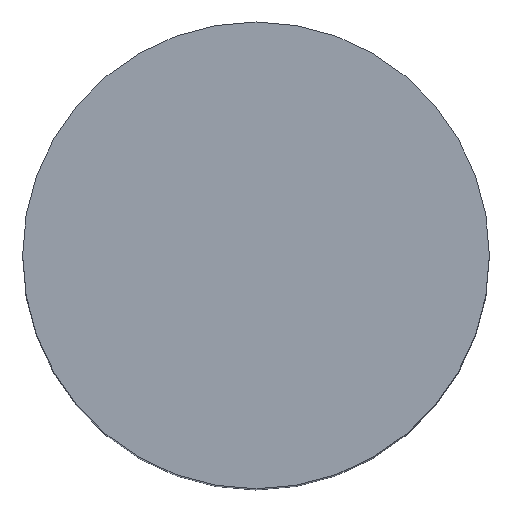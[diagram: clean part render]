
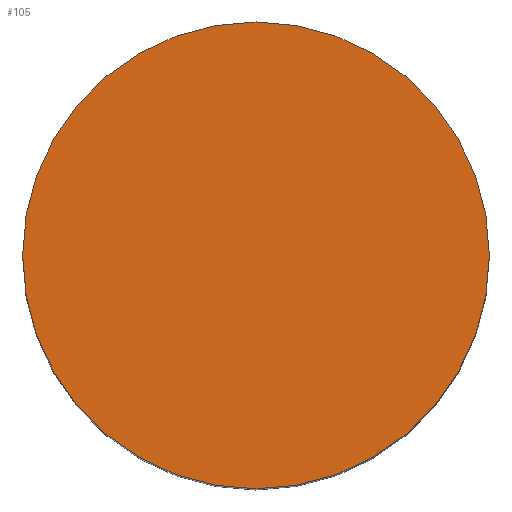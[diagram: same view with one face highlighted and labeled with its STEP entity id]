
A CAD part, top view. The second image highlights one B-rep face of the part: STEP entity #105.
In plain terms, the highlighted planar face has unit normal (0, 0, 1).
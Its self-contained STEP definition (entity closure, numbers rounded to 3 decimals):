
#21 = EDGE_CURVE('',#22,#22,#24,.T.);
#22 = VERTEX_POINT('',#23);
#23 = CARTESIAN_POINT('',(111.8,0.,24.));
#24 = SURFACE_CURVE('',#25,(#30,#42),.PCURVE_S1.);
#25 = CIRCLE('',#26,3.);
#26 = AXIS2_PLACEMENT_3D('',#27,#28,#29);
#27 = CARTESIAN_POINT('',(108.8,0.,24.));
#28 = DIRECTION('',(0.,0.,1.));
#29 = DIRECTION('',(1.,0.,-0.));
#30 = PCURVE('',#31,#36);
#31 = CYLINDRICAL_SURFACE('',#32,3.);
#32 = AXIS2_PLACEMENT_3D('',#33,#34,#35);
#33 = CARTESIAN_POINT('',(108.8,0.,15.));
#34 = DIRECTION('',(0.,0.,1.));
#35 = DIRECTION('',(1.,0.,-0.));
#36 = DEFINITIONAL_REPRESENTATION('',(#37),#41);
#37 = LINE('',#38,#39);
#38 = CARTESIAN_POINT('',(0.,9.));
#39 = VECTOR('',#40,1.);
#40 = DIRECTION('',(1.,0.));
#41 = ( GEOMETRIC_REPRESENTATION_CONTEXT(2) 
PARAMETRIC_REPRESENTATION_CONTEXT() REPRESENTATION_CONTEXT('2D SPACE',''
  ) );
#42 = PCURVE('',#43,#48);
#43 = PLANE('',#44);
#44 = AXIS2_PLACEMENT_3D('',#45,#46,#47);
#45 = CARTESIAN_POINT('',(108.8,0.,24.));
#46 = DIRECTION('',(0.,0.,1.));
#47 = DIRECTION('',(1.,0.,-0.));
#48 = DEFINITIONAL_REPRESENTATION('',(#49),#53);
#49 = CIRCLE('',#50,3.);
#50 = AXIS2_PLACEMENT_2D('',#51,#52);
#51 = CARTESIAN_POINT('',(0.,0.));
#52 = DIRECTION('',(1.,0.));
#53 = ( GEOMETRIC_REPRESENTATION_CONTEXT(2) 
PARAMETRIC_REPRESENTATION_CONTEXT() REPRESENTATION_CONTEXT('2D SPACE',''
  ) );
#105 = ADVANCED_FACE('',(#106),#43,.T.);
#106 = FACE_BOUND('',#107,.T.);
#107 = EDGE_LOOP('',(#108));
#108 = ORIENTED_EDGE('',*,*,#21,.T.);
